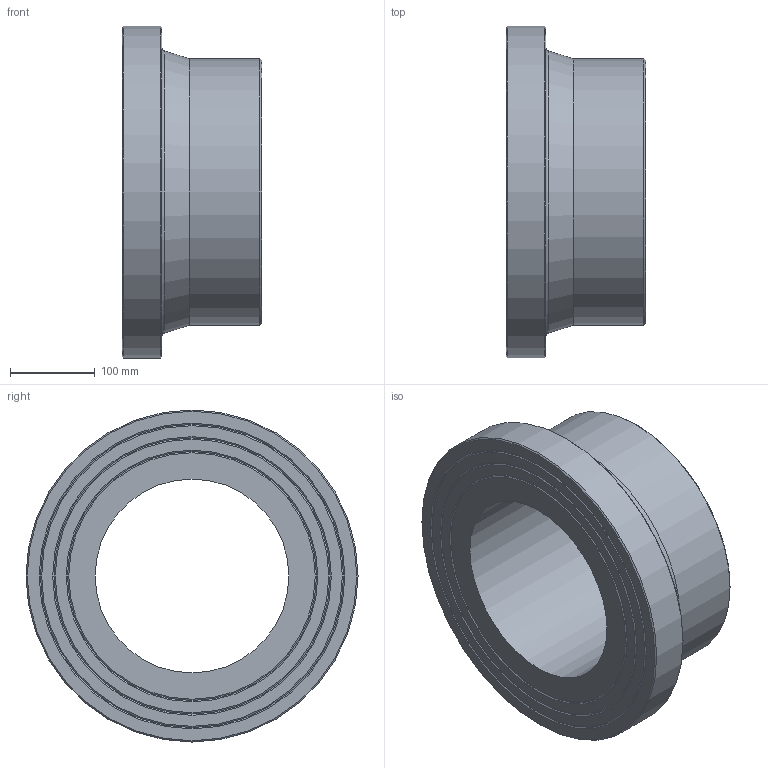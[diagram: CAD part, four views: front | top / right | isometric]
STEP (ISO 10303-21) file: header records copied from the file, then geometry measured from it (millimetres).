
FILE_DESCRIPTION(/* description */ ('Unknown'),/* implementation_level */ '2;1');
FILE_NAME(/* name */ 'CCP315H',/* time_stamp */ '2022-05-03T14:41:32+02:00',/* author */ ('Unknown'),/* organization */ ('Unknown'),/* preprocessor_version */ 'ST-DEVELOPER v18.1',/* originating_system */ 'Solid Edge',/* authorisation */ 'Unknown');
FILE_SCHEMA (('AUTOMOTIVE_DESIGN {1 0 10303 214 3 1 1}'));
Length unit declared in the file: millimetre
Products named in the file (1): CCP315H
Bounding box: 165 x 392 x 392 mm (x, y, z)
Volume: 8236669.1 mm3; surface area: 442490.1 mm2
Topology: 1 solids, 1 shells, 20 faces, 35 edges, 21 vertices
Faces by surface type: cone 10, plane 6, cylinder 3, torus 1
Full cylindrical faces by diameter (mm): 228.8 x1, 315 x1, 392 x1
Entity records: 438 total; most frequent: DIRECTION 82, CARTESIAN_POINT 61, AXIS2_PLACEMENT_3D 41, ORIENTED_EDGE 40, EDGE_LOOP 40, FACE_BOUND 40, EDGE_CURVE 20, VERTEX_POINT 20
